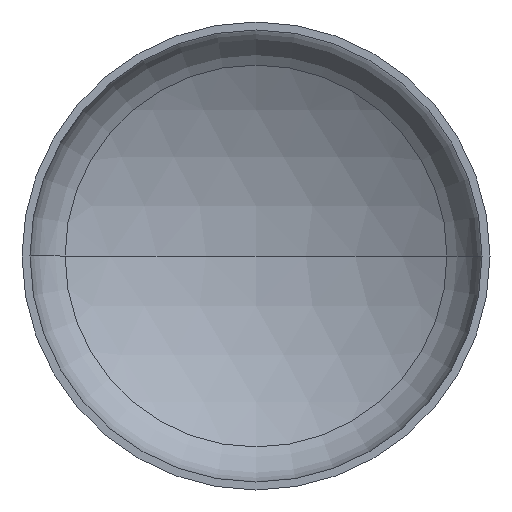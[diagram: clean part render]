
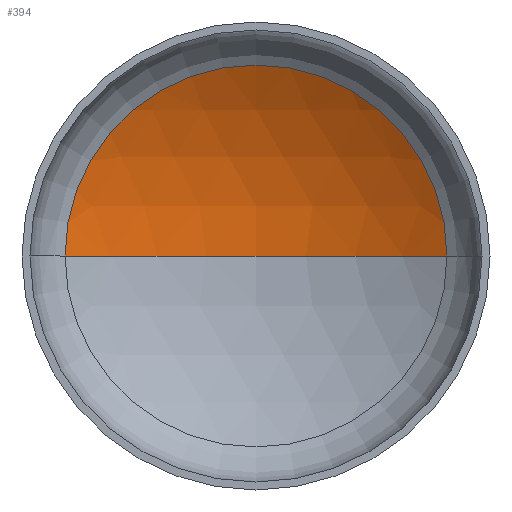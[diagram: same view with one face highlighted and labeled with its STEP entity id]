
A CAD part, front view. The second image highlights one B-rep face of the part: STEP entity #394.
In plain terms, the highlighted spherical face has radius 1360 mm.
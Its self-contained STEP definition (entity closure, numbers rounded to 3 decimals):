
#9 = AXIS2_PLACEMENT_3D ( 'NONE', #372, #235, #236 ) ;
#10 = AXIS2_PLACEMENT_3D ( 'NONE', #349, #211, #292 ) ;
#22 = AXIS2_PLACEMENT_3D ( 'NONE', #410, #147, #203 ) ;
#23 = CIRCLE ( 'NONE', #22, 693.6 ) ;
#36 = EDGE_LOOP ( 'NONE', ( #106, #50, #52 ) ) ;
#50 = ORIENTED_EDGE ( 'NONE', *, *, #388, .T. ) ;
#52 = ORIENTED_EDGE ( 'NONE', *, *, #351, .T. ) ;
#60 = VERTEX_POINT ( 'NONE', #276 ) ;
#106 = ORIENTED_EDGE ( 'NONE', *, *, #385, .F. ) ;
#107 = CARTESIAN_POINT ( 'NONE',  ( -693.6, 313.645, 0. ) ) ;
#125 = CARTESIAN_POINT ( 'NONE',  ( 0., -856.192, 0. ) ) ;
#147 = DIRECTION ( 'NONE',  ( 0., -1., 0. ) ) ;
#170 = VERTEX_POINT ( 'NONE', #204 ) ;
#171 = DIRECTION ( 'NONE',  ( 0., 0., -1. ) ) ;
#197 = VERTEX_POINT ( 'NONE', #107 ) ;
#203 = DIRECTION ( 'NONE',  ( 1., 0., 0. ) ) ;
#204 = CARTESIAN_POINT ( 'NONE',  ( 693.6, 313.645, 0. ) ) ;
#209 = DIRECTION ( 'NONE',  ( -1., 0., 0. ) ) ;
#211 = DIRECTION ( 'NONE',  ( 0., 0., -1. ) ) ;
#227 = CIRCLE ( 'NONE', #9, 1360. ) ;
#235 = DIRECTION ( 'NONE',  ( 0., 0., 1. ) ) ;
#236 = DIRECTION ( 'NONE',  ( 1., 0., 0. ) ) ;
#276 = CARTESIAN_POINT ( 'NONE',  ( 0., 503.808, 0. ) ) ;
#282 = AXIS2_PLACEMENT_3D ( 'NONE', #125, #171, #209 ) ;
#292 = DIRECTION ( 'NONE',  ( -1., 0., 0. ) ) ;
#349 = CARTESIAN_POINT ( 'NONE',  ( 0., -856.192, 0. ) ) ;
#351 = EDGE_CURVE ( 'NONE', #170, #197, #23, .T. ) ;
#354 = CIRCLE ( 'NONE', #10, 1360. ) ;
#372 = CARTESIAN_POINT ( 'NONE',  ( 0., -856.192, 0. ) ) ;
#385 = EDGE_CURVE ( 'NONE', #60, #197, #227, .T. ) ;
#388 = EDGE_CURVE ( 'NONE', #60, #170, #354, .T. ) ;
#394 = ADVANCED_FACE ( 'NONE', ( #401 ), #398, .F. ) ;
#398 = SPHERICAL_SURFACE ( 'NONE', #282, 1360. ) ;
#401 = FACE_OUTER_BOUND ( 'NONE', #36, .T. ) ;
#410 = CARTESIAN_POINT ( 'NONE',  ( 0., 313.645, 0. ) ) ;
